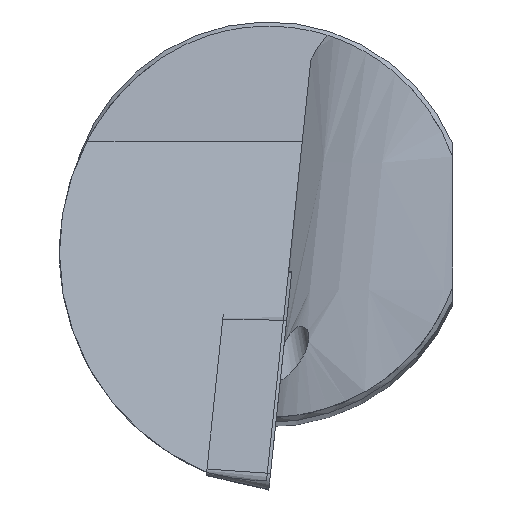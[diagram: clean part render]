
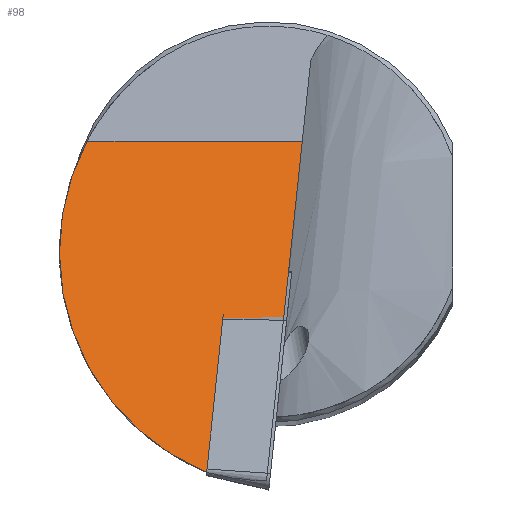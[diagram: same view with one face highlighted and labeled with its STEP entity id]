
A CAD part, top view. The second image highlights one B-rep face of the part: STEP entity #98.
In plain terms, the highlighted planar face has unit normal (0, 0.302, 0.953).
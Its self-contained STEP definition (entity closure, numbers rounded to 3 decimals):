
#46=ELLIPSE('',#426,15.532,14.74);
#47=ELLIPSE('',#429,15.599,14.87);
#98=ADVANCED_FACE('',(#135),#119,.F.);
#119=PLANE('',#430);
#135=FACE_OUTER_BOUND('',#156,.T.);
#156=EDGE_LOOP('',(#214,#215,#216,#217));
#214=ORIENTED_EDGE('',*,*,#331,.T.);
#215=ORIENTED_EDGE('',*,*,#335,.F.);
#216=ORIENTED_EDGE('',*,*,#336,.T.);
#217=ORIENTED_EDGE('',*,*,#337,.F.);
#290=VERTEX_POINT('',#600);
#291=VERTEX_POINT('',#601);
#294=VERTEX_POINT('',#624);
#295=VERTEX_POINT('',#626);
#331=EDGE_CURVE('',#290,#291,#46,.T.);
#335=EDGE_CURVE('',#294,#291,#379,.T.);
#336=EDGE_CURVE('',#294,#295,#380,.T.);
#337=EDGE_CURVE('',#290,#295,#47,.T.);
#379=LINE('',#623,#403);
#380=LINE('',#625,#404);
#403=VECTOR('',#500,1.);
#404=VECTOR('',#501,1.);
#426=AXIS2_PLACEMENT_3D('',#599,#494,#495);
#429=AXIS2_PLACEMENT_3D('',#627,#502,#503);
#430=AXIS2_PLACEMENT_3D('',#628,#504,#505);
#494=DIRECTION('',(0.,0.302,0.953));
#495=DIRECTION('',(0.,-0.953,0.302));
#500=DIRECTION('',(-0.1,-0.948,0.301));
#501=DIRECTION('',(-1.,0.,0.));
#502=DIRECTION('',(0.,-0.302,-0.953));
#503=DIRECTION('',(0.,-0.953,0.302));
#504=DIRECTION('',(0.,-0.302,-0.953));
#505=DIRECTION('',(0.,0.953,-0.302));
#599=CARTESIAN_POINT('',(0.,-1.396,-4.689));
#600=CARTESIAN_POINT('',(-3.851,-15.687,-0.158));
#601=CARTESIAN_POINT('',(-0.114,-16.201,0.005));
#623=CARTESIAN_POINT('',(0.351,-11.777,-1.398));
#624=CARTESIAN_POINT('',(2.114,5.,-6.717));
#625=CARTESIAN_POINT('',(-16.2,5.,-6.717));
#626=CARTESIAN_POINT('',(-11.319,5.,-6.717));
#627=CARTESIAN_POINT('',(1.829,-1.945,-4.515));
#628=CARTESIAN_POINT('',(-16.2,-23.517,2.324));
